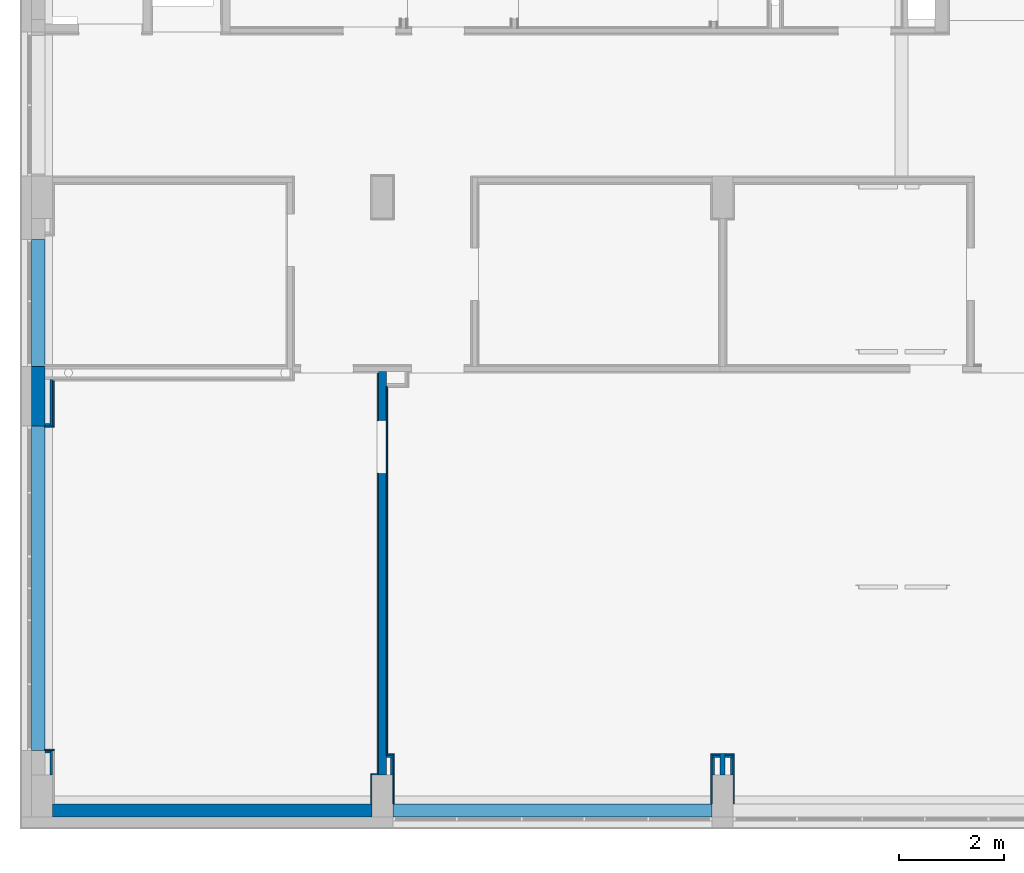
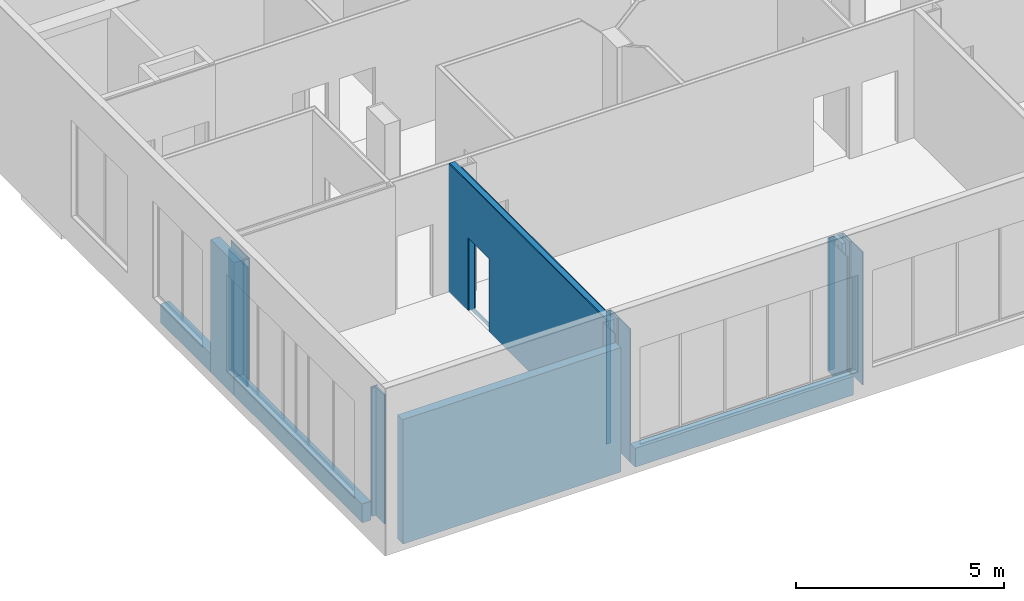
# One storey, part 16 of 29: 30 walls, 3 openings.
"""IFC2X3 building model written with IfcOpenShell, lengths in centimetres."""

from ifc_helpers import new_model, entity, si_unit, converted_unit, derived_unit, direction, frame, frame_2d, origin, origin_2d_with_axis, place, context, subcontext, project, spatial, polyline, rectangle, extrude, clip, bounded_halfspace, material, layer, layer_set, layer_usage, type_object, element, save


model = new_model("IFC2X3")

# Units and contexts
model_context = context("Model", 3, precision=0.001, world=origin(), true_north=direction((6.12303176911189e-17, 1.0)))
body_context = subcontext(model_context, "Body", "Model", "MODEL_VIEW")
ifc_project = project(units=[si_unit("LENGTHUNIT", "METRE", prefix="CENTI"), si_unit("AREAUNIT", "SQUARE_METRE"), si_unit("VOLUMEUNIT", "CUBIC_METRE"), converted_unit("PLANEANGLEUNIT", "DEGREE", entity("IfcRatioMeasure", 0.0174532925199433), si_unit("PLANEANGLEUNIT", "RADIAN"), dimensions=[0, 0, 0, 0, 0, 0, 0]), si_unit("MASSUNIT", "GRAM", prefix="KILO"), derived_unit("MASSDENSITYUNIT", [(si_unit("MASSUNIT", "GRAM", prefix="KILO"), 1), (si_unit("LENGTHUNIT", "METRE"), -3)]), derived_unit("MOMENTOFINERTIAUNIT", [(si_unit("LENGTHUNIT", "METRE"), 4)]), si_unit("TIMEUNIT", "SECOND"), si_unit("FREQUENCYUNIT", "HERTZ"), si_unit("THERMODYNAMICTEMPERATUREUNIT", "DEGREE_CELSIUS"), derived_unit("THERMALTRANSMITTANCEUNIT", [(si_unit("MASSUNIT", "GRAM", prefix="KILO"), 1), (si_unit("THERMODYNAMICTEMPERATUREUNIT", "KELVIN"), -1), (si_unit("TIMEUNIT", "SECOND"), -3)]), derived_unit("VOLUMETRICFLOWRATEUNIT", [(si_unit("LENGTHUNIT", "METRE"), 3), (si_unit("TIMEUNIT", "SECOND"), -1)]), si_unit("ELECTRICCURRENTUNIT", "AMPERE"), si_unit("ELECTRICVOLTAGEUNIT", "VOLT"), si_unit("POWERUNIT", "WATT"), si_unit("FORCEUNIT", "NEWTON", prefix="KILO"), si_unit("ILLUMINANCEUNIT", "LUX"), si_unit("LUMINOUSFLUXUNIT", "LUMEN"), si_unit("LUMINOUSINTENSITYUNIT", "CANDELA"), derived_unit("USERDEFINED", [(si_unit("MASSUNIT", "GRAM", prefix="KILO"), -1), (si_unit("LENGTHUNIT", "METRE"), -2), (si_unit("TIMEUNIT", "SECOND"), 3), (si_unit("LUMINOUSFLUXUNIT", "LUMEN"), 1)]), derived_unit("LINEARVELOCITYUNIT", [(si_unit("LENGTHUNIT", "METRE"), 1), (si_unit("TIMEUNIT", "SECOND"), -1)]), si_unit("PRESSUREUNIT", "PASCAL"), derived_unit("USERDEFINED", [(si_unit("LENGTHUNIT", "METRE"), -2), (si_unit("MASSUNIT", "GRAM", prefix="KILO"), 1), (si_unit("TIMEUNIT", "SECOND"), -2)]), derived_unit("LINEARFORCEUNIT", [(si_unit("MASSUNIT", "GRAM", prefix="KILO"), 1), (si_unit("LENGTHUNIT", "METRE"), 1), (si_unit("TIMEUNIT", "SECOND"), -2), (si_unit("LENGTHUNIT", "METRE"), -1)]), derived_unit("PLANARFORCEUNIT", [(si_unit("MASSUNIT", "GRAM", prefix="KILO"), 1), (si_unit("LENGTHUNIT", "METRE"), 1), (si_unit("TIMEUNIT", "SECOND"), -2), (si_unit("LENGTHUNIT", "METRE"), -2)])], contexts=[model_context])

# Site, building, storey
site_placement = place(None, origin())
site = spatial("IfcSite", under=ifc_project, at=site_placement, Name="Default", CompositionType="ELEMENT")
building_placement = place(site_placement, origin())
building = spatial("IfcBuilding", under=site, at=building_placement, CompositionType="ELEMENT")
storey_placement = place(building_placement, frame((0.0, 0.0, 545.0)))
storey = spatial("IfcBuildingStorey", under=building, at=storey_placement, Name="Poziom 1K +5,45", CompositionType="ELEMENT", Elevation=544.999999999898)

# Walls
ifc_material_1 = material(Name="_Beton C30/37")
ifc_layer_1 = layer(ifc_material_1, 25.0)
ifc_layer_set_1 = layer_set([ifc_layer_1], Name="Ściana podstawowa:Ściana żelbetowa gr. 25cm")
ifc_layer_usage_1 = layer_usage(ifc_layer_set_1, "AXIS2", "NEGATIVE", 12.5)
wall_type_1 = type_object("IfcWallType", Name="Ściana podstawowa:Ściana żelbetowa gr. 25cm", PredefinedType="STANDARD", material=ifc_layer_set_1)
wall_1_placement = place(storey_placement, frame((-2921.76510381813, 1109.62745084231, 0.0), z_axis=(0.0, 0.0, 1.0), x_axis=(0.0, -1.0, 0.0)))
element("IfcWallStandardCase", 1, at=wall_1_placement, inside=storey, type_object=wall_type_1, material=ifc_layer_usage_1, Name="Ściana podstawowa:Ściana żelbetowa gr. 25cm", ObjectType="Ściana podstawowa:Ściana żelbetowa gr. 25cm", context=body_context, shape_type="SweptSolid", body=[
    extrude(rectangle(XDim=113.499793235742, YDim=25.0000000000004, at=frame_2d((56.7498966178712, 0.0), x_axis=(-1.0, 0.0))), origin(), (0.0, 0.0, 1.0), 390.000000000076),
])
ifc_material_2 = material(Name="Pustak ceramiczny, klasa 15")
ifc_layer_2 = layer(ifc_material_2, 25.0)
ifc_layer_set_2 = layer_set([ifc_layer_2], Name="Ściana podstawowa:Ściana murowana gr. 25cm")
ifc_layer_usage_2 = layer_usage(ifc_layer_set_2, "AXIS2", "POSITIVE", -12.5)
wall_type_2 = type_object("IfcWallType", Name="Ściana podstawowa:Ściana murowana gr. 25cm", PredefinedType="STANDARD", material=ifc_layer_set_2)
wall_2_placement = place(storey_placement, frame((-2921.76510657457, 1350.12745208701, 0.0), z_axis=(0.0, 0.0, 1.0), x_axis=(0.0, -1.0, 0.0)))
element("IfcWallStandardCase", 2, at=wall_2_placement, inside=storey, type_object=wall_type_2, material=ifc_layer_usage_2, Name="Ściana podstawowa:Ściana murowana gr. 25cm", ObjectType="Ściana podstawowa:Ściana murowana gr. 25cm", context=body_context, shape_type="SweptSolid", body=[
    extrude(rectangle(XDim=240.500001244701, YDim=25.0000000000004, at=frame_2d((120.250000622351, 0.0), x_axis=(-1.0, 0.0))), origin(), (0.0, 0.0, 1.0), 55.0000000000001),
])
ifc_layer_usage_3 = layer_usage(ifc_layer_set_2, "AXIS2", "POSITIVE", -12.5)
wall_3_placement = place(storey_placement, frame((-2894.2651058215, 267.62765760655, 0.0)))
element("IfcWallStandardCase", 3, at=wall_3_placement, inside=storey, type_object=wall_type_2, material=ifc_layer_usage_3, Name="Ściana podstawowa:Ściana murowana gr. 25cm", ObjectType="Ściana podstawowa:Ściana murowana gr. 25cm", context=body_context, shape_type="SweptSolid", body=[
    extrude(rectangle(XDim=604.999999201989, YDim=24.9999999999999, at=frame_2d((302.499999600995, 0.0), x_axis=(-1.0, 0.0))), origin(), (0.0, 0.0, 1.0), 365.000000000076),
])
ifc_layer_usage_4 = layer_usage(ifc_layer_set_2, "AXIS2", "POSITIVE", -12.5)
wall_4_placement = place(storey_placement, frame((-2249.26510661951, 267.62765760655, 0.0)))
element("IfcWallStandardCase", 4, at=wall_4_placement, inside=storey, type_object=wall_type_2, material=ifc_layer_usage_4, Name="Ściana podstawowa:Ściana murowana gr. 25cm", ObjectType="Ściana podstawowa:Ściana murowana gr. 25cm", context=body_context, shape_type="SweptSolid", body=[
    extrude(rectangle(XDim=604.999999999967, YDim=24.9999999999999, at=frame_2d((302.499999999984, 0.0), x_axis=(-1.0, 0.0))), origin(), (0.0, 0.0, 1.0), 55.0000000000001),
])
ifc_layer_usage_5 = layer_usage(ifc_layer_set_2, "AXIS2", "POSITIVE", -12.5)
wall_5_placement = place(storey_placement, frame((-2921.76510657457, 996.127657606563, 0.0), z_axis=(0.0, 0.0, 1.0), x_axis=(0.0, -1.0, 0.0)))
element("IfcWallStandardCase", 5, at=wall_5_placement, inside=storey, type_object=wall_type_2, material=ifc_layer_usage_5, Name="Ściana podstawowa:Ściana murowana gr. 25cm", ObjectType="Ściana podstawowa:Ściana murowana gr. 25cm", context=body_context, shape_type="SweptSolid", body=[
    extrude(rectangle(XDim=615.00020526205, YDim=25.0000000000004, at=frame_2d((307.500102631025, 0.0), x_axis=(-1.0, 0.0))), origin(), (0.0, 0.0, 1.0), 55.0000000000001),
])
ifc_material_3 = material(Name="Wełna skalna")
ifc_layer_3 = layer(ifc_material_3, 10.0)
ifc_layer_set_3 = layer_set([ifc_layer_3], Name="Ściana podstawowa:Ściana GK rdzeń gr. 10cm")
ifc_layer_usage_6 = layer_usage(ifc_layer_set_3, "AXIS2", "NEGATIVE", 5.0)
wall_type_3 = type_object("IfcWallType", Name="Ściana podstawowa:Ściana GK rdzeń gr. 10cm", PredefinedType="STANDARD", material=ifc_layer_set_3)
wall_6_placement = place(storey_placement, frame((-1624.26510661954, 375.127452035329, 13.0), z_axis=(0.0, 0.0, 1.0), x_axis=(0.0, -1.0, 0.0)))
element("IfcWallStandardCase", 6, at=wall_6_placement, inside=storey, type_object=wall_type_3, material=ifc_layer_usage_6, Name="Ściana podstawowa:Ściana GK rdzeń gr. 10cm", ObjectType="Ściana podstawowa:Ściana GK rdzeń gr. 10cm", context=body_context, shape_type="SweptSolid", body=[
    extrude(rectangle(XDim=39.9997944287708, YDim=9.99999999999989, at=frame_2d((19.9998972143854, 0.0), x_axis=(-1.0, 0.0))), origin(), (0.0, 0.0, 1.0), 377.000000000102),
])

# Wall, opening
ifc_layer_4 = layer(ifc_material_3, 15.0)
ifc_layer_set_4 = layer_set([ifc_layer_4], Name="Ściana podstawowa:Ściana GK rdzeń gr. 15cm")
ifc_layer_usage_7 = layer_usage(ifc_layer_set_4, "AXIS2", "NEGATIVE", 7.5)
wall_type_4 = type_object("IfcWallType", Name="Ściana podstawowa:Ściana GK rdzeń gr. 15cm", PredefinedType="STANDARD", material=ifc_layer_set_4)
wall_7_placement = place(storey_placement, frame((-2269.2651206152, 1099.62745216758, 13.0), z_axis=(0.0, 0.0, 1.0), x_axis=(0.0, -1.0, 0.0)))
wall_7 = element("IfcWallStandardCase", 7, at=wall_7_placement, inside=storey, type_object=wall_type_4, material=ifc_layer_usage_7, Name="Ściana podstawowa:Ściana GK rdzeń gr. 15cm", ObjectType="Ściana podstawowa:Ściana GK rdzeń gr. 15cm", context=body_context, shape_type="SweptSolid", body=[
    extrude(rectangle(XDim=764.499794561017, YDim=15.0000000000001, at=frame_2d((382.249897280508, 3.10862446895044e-15), x_axis=(-1.0, 0.0))), origin(), (0.0, 0.0, 1.0), 377.000000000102),
])
opening_1_placement = place(wall_7_placement, origin())
element("IfcOpeningElement", 8, at=opening_1_placement, cuts=wall_7, Name="Ściana podstawowa:Ściana GK rdzeń gr. 15cm", ObjectType="Opening", context=body_context, shape_type="SweptSolid", body=[
    extrude(rectangle(XDim=215.0, YDim=100.0, at=origin_2d_with_axis()), frame((143.0, -144.9, 107.5), z_axis=(0.0, 1.0, 0.0), x_axis=(0.0, 0.0, -1.0)), (0.0, 0.0, 1.0), 304.8),
])

# Walls
ifc_layer_5 = layer(ifc_material_3, 5.0)
ifc_layer_set_5 = layer_set([ifc_layer_5], Name="Ściana podstawowa:Ściana GK rdzeń gr. 5cm")
ifc_layer_usage_8 = layer_usage(ifc_layer_set_5, "AXIS2", "NEGATIVE", 2.5)
wall_type_5 = type_object("IfcWallType", Name="Ściana podstawowa:Ściana GK rdzeń gr. 5cm", PredefinedType="STANDARD", material=ifc_layer_set_5)
wall_8_placement = place(storey_placement, frame((-1619.26510661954, 370.076185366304, 0.0)))
element("IfcWallStandardCase", 9, at=wall_8_placement, inside=storey, type_object=wall_type_5, material=ifc_layer_usage_8, Name="Ściana podstawowa:Ściana GK rdzeń gr. 5cm", ObjectType="Ściana podstawowa:Ściana GK rdzeń gr. 5cm", context=body_context, shape_type="SweptSolid", body=[
    extrude(rectangle(XDim=15.0000139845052, YDim=5.00000000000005, at=frame_2d((7.50000699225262, 5.55111512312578e-15), x_axis=(-1.0, 0.0))), origin(), (0.0, 0.0, 1.0), 390.000000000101),
])
ifc_layer_usage_9 = layer_usage(ifc_layer_set_5, "AXIS2", "NEGATIVE", 2.5)
wall_9_placement = place(storey_placement, frame((-1606.76509263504, 367.576185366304, 0.0), z_axis=(0.0, 0.0, 1.0), x_axis=(0.0, -1.0, 0.0)))
element("IfcWallStandardCase", 10, at=wall_9_placement, inside=storey, type_object=wall_type_5, material=ifc_layer_usage_9, Name="Ściana podstawowa:Ściana GK rdzeń gr. 5cm", ObjectType="Ściana podstawowa:Ściana GK rdzeń gr. 5cm", context=body_context, shape_type="SweptSolid", body=[
    extrude(rectangle(XDim=32.4997944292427, YDim=5.00000000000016, at=frame_2d((16.2498972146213, 2.70894418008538e-14), x_axis=(-1.0, 0.0))), origin(), (0.0, 0.0, 1.0), 390.000000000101),
])
ifc_layer_usage_10 = layer_usage(ifc_layer_set_5, "AXIS2", "NEGATIVE", 2.5)
wall_10_placement = place(storey_placement, frame((-1641.76510661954, 367.576185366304, 0.0), z_axis=(0.0, 0.0, 1.0), x_axis=(0.0, -1.0, 0.0)))
element("IfcWallStandardCase", 11, at=wall_10_placement, inside=storey, type_object=wall_type_5, material=ifc_layer_usage_10, Name="Ściana podstawowa:Ściana GK rdzeń gr. 5cm", ObjectType="Ściana podstawowa:Ściana GK rdzeń gr. 5cm", context=body_context, shape_type="SweptSolid", body=[
    extrude(rectangle(XDim=32.4997944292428, YDim=5.00000000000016, at=frame_2d((16.2498972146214, 2.70894418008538e-14), x_axis=(-1.0, 0.0))), origin(), (0.0, 0.0, 1.0), 390.000000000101),
])
ifc_layer_usage_11 = layer_usage(ifc_layer_set_5, "AXIS2", "NEGATIVE", 2.5)
wall_11_placement = place(storey_placement, frame((-1629.26510661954, 370.076185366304, 0.0), z_axis=(0.0, 0.0, 1.0), x_axis=(-1.0, 0.0, 0.0)))
element("IfcWallStandardCase", 12, at=wall_11_placement, inside=storey, type_object=wall_type_5, material=ifc_layer_usage_11, Name="Ściana podstawowa:Ściana GK rdzeń gr. 5cm", ObjectType="Ściana podstawowa:Ściana GK rdzeń gr. 5cm", context=body_context, shape_type="SweptSolid", body=[
    extrude(rectangle(XDim=14.9999860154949, YDim=5.00000000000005, at=frame_2d((7.49999300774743, 5.55111512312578e-15), x_axis=(-1.0, 0.0))), origin(), (0.0, 0.0, 1.0), 390.000000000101),
])
ifc_layer_usage_12 = layer_usage(ifc_layer_set_5, "AXIS2", "NEGATIVE", 2.5)
wall_12_placement = place(storey_placement, frame((-2261.7651206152, 370.076185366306, 0.0)))
element("IfcWallStandardCase", 13, at=wall_12_placement, inside=storey, type_object=wall_type_5, material=ifc_layer_usage_12, Name="Ściana podstawowa:Ściana GK rdzeń gr. 5cm", ObjectType="Ściana podstawowa:Ściana GK rdzeń gr. 5cm", context=body_context, shape_type="SweptSolid", body=[
    extrude(rectangle(XDim=12.5000139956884, YDim=5.00000000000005, at=frame_2d((6.25000699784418, 0.0), x_axis=(-1.0, 0.0))), origin(), (0.0, 0.0, 1.0), 390.000000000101),
])
ifc_layer_usage_13 = layer_usage(ifc_layer_set_5, "AXIS2", "NEGATIVE", 2.5)
wall_13_placement = place(storey_placement, frame((-2251.76510661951, 367.576185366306, 0.0), z_axis=(0.0, 0.0, 1.0), x_axis=(0.0, -1.0, 0.0)))
element("IfcWallStandardCase", 14, at=wall_13_placement, inside=storey, type_object=wall_type_5, material=ifc_layer_usage_13, Name="Ściana podstawowa:Ściana GK rdzeń gr. 5cm", ObjectType="Ściana podstawowa:Ściana GK rdzeń gr. 5cm", context=body_context, shape_type="SweptSolid", body=[
    extrude(rectangle(XDim=32.4997944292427, YDim=4.99999999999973, at=frame_2d((16.2498972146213, 2.70894418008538e-14), x_axis=(-1.0, 0.0))), origin(), (0.0, 0.0, 1.0), 390.000000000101),
])
ifc_layer_usage_14 = layer_usage(ifc_layer_set_5, "AXIS2", "NEGATIVE", 2.5)
wall_14_placement = place(storey_placement, frame((-2909.26510657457, 378.627450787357, 13.0)))
element("IfcWallStandardCase", 15, at=wall_14_placement, inside=storey, type_object=wall_type_5, material=ifc_layer_usage_14, Name="Ściana podstawowa:Ściana GK rdzeń gr. 5cm", ObjectType="Ściana podstawowa:Ściana GK rdzeń gr. 5cm", context=body_context, shape_type="SweptSolid", body=[
    extrude(rectangle(XDim=10.0000007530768, YDim=4.99999999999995, at=frame_2d((5.0000003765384, -9.10382880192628e-15), x_axis=(-1.0, 0.0))), origin(), (0.0, 0.0, 1.0), 377.000000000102),
])
ifc_layer_usage_15 = layer_usage(ifc_layer_set_5, "AXIS2", "NEGATIVE", 2.5)
wall_15_placement = place(storey_placement, frame((-2896.7651058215, 381.127450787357, 13.0), z_axis=(0.0, 0.0, 1.0), x_axis=(0.0, -1.0, 0.0)))
element("IfcWallStandardCase", 16, at=wall_15_placement, inside=storey, type_object=wall_type_5, material=ifc_layer_usage_15, Name="Ściana podstawowa:Ściana GK rdzeń gr. 5cm", ObjectType="Ściana podstawowa:Ściana GK rdzeń gr. 5cm", context=body_context, shape_type="SweptSolid", body=[
    extrude(rectangle(XDim=45.9997931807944, YDim=4.99999999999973, at=frame_2d((22.9998965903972, 0.0), x_axis=(-1.0, 0.0))), origin(), (0.0, 0.0, 1.0), 377.000000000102),
])
ifc_layer_usage_16 = layer_usage(ifc_layer_set_5, "AXIS2", "NEGATIVE", 2.5)
wall_16_placement = place(storey_placement, frame((-2896.76511742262, 1084.62745217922, 13.0), z_axis=(0.0, 0.0, 1.0), x_axis=(0.0, -1.0, 0.0)))
element("IfcWallStandardCase", 17, at=wall_16_placement, inside=storey, type_object=wall_type_5, material=ifc_layer_usage_16, Name="Ściana podstawowa:Ściana GK rdzeń gr. 5cm", ObjectType="Ściana podstawowa:Ściana GK rdzeń gr. 5cm", context=body_context, shape_type="Clipping", body=[
    clip(extrude(rectangle(XDim=88.5000014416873, YDim=4.99999999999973, at=frame_2d((44.2500007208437, 0.0), x_axis=(-1.0, 0.0))), origin(), (0.0, 0.0, 1.0), 351.99999999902), bounded_halfspace(frame((0.0, -2.5000000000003, 352.0), z_axis=(0.0, 0.0, 1.0), x_axis=(0.0, -1.0, 0.0)), False, frame((0.0, -2.5000000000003, 352.0), z_axis=(0.0, 0.0, 1.0), x_axis=(0.0, -1.0, 0.0)), polyline([(0.0, 0.0), (0.0, 88.5000014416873), (-5.0, 88.5000014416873), (-5.0, 0.0), (0.0, 0.0)]))),
])
ifc_layer_usage_17 = layer_usage(ifc_layer_set_5, "AXIS2", "NEGATIVE", 2.5)
wall_17_placement = place(storey_placement, frame((-2899.26511742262, 998.627450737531, 13.0), z_axis=(0.0, 0.0, 1.0), x_axis=(-1.0, 0.0, 0.0)))
element("IfcWallStandardCase", 18, at=wall_17_placement, inside=storey, type_object=wall_type_5, material=ifc_layer_usage_17, Name="Ściana podstawowa:Ściana GK rdzeń gr. 5cm", ObjectType="Ściana podstawowa:Ściana GK rdzeń gr. 5cm", context=body_context, shape_type="SweptSolid", body=[
    extrude(rectangle(XDim=9.99998639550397, YDim=5.00000000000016, at=frame_2d((4.99999319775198, 0.0), x_axis=(-1.0, 0.0))), origin(), (0.0, 0.0, 1.0), 377.000000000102),
])

# Wall, opening
ifc_material_4 = material(Name="Tynk gipsowy")
ifc_layer_6 = layer(ifc_material_4, 2.5)
ifc_layer_set_6 = layer_set([ifc_layer_6], Name="Ściana podstawowa:Ściana GK wykonczenie gr. 2,5cm")
ifc_layer_usage_18 = layer_usage(ifc_layer_set_6, "AXIS2", "NEGATIVE", 1.25)
wall_type_6 = type_object("IfcWallType", Name="Ściana podstawowa:Ściana GK wykonczenie gr. 2,5cm", PredefinedType="STANDARD", material=ifc_layer_set_6)
wall_18_placement = place(storey_placement, frame((-2278.0151206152, 1099.62745216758, 13.0), z_axis=(0.0, 0.0, 1.0), x_axis=(0.0, -1.0, 0.0)))
wall_18 = element("IfcWallStandardCase", 19, at=wall_18_placement, inside=storey, type_object=wall_type_6, material=ifc_layer_usage_18, Name="Ściana podstawowa:Ściana GK wykonczenie gr. 2,5cm", ObjectType="Ściana podstawowa:Ściana GK wykonczenie gr. 2,5cm", context=body_context, shape_type="SweptSolid", body=[
    extrude(rectangle(XDim=762.051061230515, YDim=2.5000000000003, at=frame_2d((381.025530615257, -4.44089209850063e-16), x_axis=(-1.0, 0.0))), origin(), (0.0, 0.0, 1.0), 377.000000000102),
])
opening_2_placement = place(wall_18_placement, origin())
element("IfcOpeningElement", 20, at=opening_2_placement, cuts=wall_18, Name="Ściana podstawowa:Ściana GK wykonczenie gr. 2,5cm", ObjectType="Opening", context=body_context, shape_type="SweptSolid", body=[
    extrude(rectangle(XDim=215.0, YDim=100.0, at=origin_2d_with_axis()), frame((143.0, -136.15, 107.5), z_axis=(0.0, 1.0, 0.0), x_axis=(0.0, 0.0, -1.0)), (0.0, 0.0, 1.0), 304.8),
])

# Walls
ifc_layer_usage_19 = layer_usage(ifc_layer_set_6, "AXIS2", "NEGATIVE", 1.25)
wall_19_placement = place(storey_placement, frame((-2276.7651206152, 336.326390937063, 13.0), z_axis=(0.0, 0.0, 1.0), x_axis=(-1.0, 0.0, 0.0)))
element("IfcWallStandardCase", 21, at=wall_19_placement, inside=storey, type_object=wall_type_6, material=ifc_layer_usage_19, Name="Ściana podstawowa:Ściana GK wykonczenie gr. 2,5cm", ObjectType="Ściana podstawowa:Ściana GK wykonczenie gr. 2,5cm", context=body_context, shape_type="SweptSolid", body=[
    extrude(rectangle(XDim=12.499986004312, YDim=2.49999999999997, at=frame_2d((6.24999300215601, 0.0), x_axis=(-1.0, 0.0))), origin(), (0.0, 0.0, 1.0), 377.000000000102),
])
ifc_layer_usage_20 = layer_usage(ifc_layer_set_6, "AXIS2", "NEGATIVE", 1.25)
wall_20_placement = place(storey_placement, frame((-2290.51510661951, 337.576390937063, 13.0), z_axis=(0.0, 0.0, 1.0), x_axis=(0.0, -1.0, 0.0)))
element("IfcWallStandardCase", 22, at=wall_20_placement, inside=storey, type_object=wall_type_6, material=ifc_layer_usage_20, Name="Ściana podstawowa:Ściana GK wykonczenie gr. 2,5cm", ObjectType="Ściana podstawowa:Ściana GK wykonczenie gr. 2,5cm", context=body_context, shape_type="SweptSolid", body=[
    extrude(rectangle(XDim=57.448733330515, YDim=2.5000000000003, at=frame_2d((28.7243666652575, 0.0), x_axis=(-1.0, 0.0))), origin(), (0.0, 0.0, 1.0), 377.000000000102),
])
ifc_layer_usage_21 = layer_usage(ifc_layer_set_6, "AXIS2", "NEGATIVE", 1.25)
wall_21_placement = place(storey_placement, frame((-2891.7651058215, 382.377450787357, 13.0), z_axis=(0.0, 0.0, 1.0), x_axis=(-1.0, 0.0, 0.0)))
element("IfcWallStandardCase", 23, at=wall_21_placement, inside=storey, type_object=wall_type_6, material=ifc_layer_usage_21, Name="Ściana podstawowa:Ściana GK wykonczenie gr. 2,5cm", ObjectType="Ściana podstawowa:Ściana GK wykonczenie gr. 2,5cm", context=body_context, shape_type="SweptSolid", body=[
    extrude(rectangle(XDim=17.5000007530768, YDim=2.49999999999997, at=frame_2d((8.75000037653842, 4.55191440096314e-15), x_axis=(-1.0, 0.0))), origin(), (0.0, 0.0, 1.0), 377.000000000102),
])
ifc_layer_usage_22 = layer_usage(ifc_layer_set_6, "AXIS2", "NEGATIVE", 1.25)
wall_22_placement = place(storey_placement, frame((-2909.26510381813, 994.877450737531, 13.0)))
element("IfcWallStandardCase", 24, at=wall_22_placement, inside=storey, type_object=wall_type_6, material=ifc_layer_usage_22, Name="Ściana podstawowa:Ściana GK wykonczenie gr. 2,5cm", ObjectType="Ściana podstawowa:Ściana GK wykonczenie gr. 2,5cm", context=body_context, shape_type="SweptSolid", body=[
    extrude(rectangle(XDim=14.9999863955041, YDim=2.49999999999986, at=frame_2d((7.49999319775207, 0.0), x_axis=(-1.0, 0.0))), origin(), (0.0, 0.0, 1.0), 377.000000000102),
])
ifc_layer_usage_23 = layer_usage(ifc_layer_set_6, "AXIS2", "NEGATIVE", 1.25)
wall_23_placement = place(storey_placement, frame((-2893.01511742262, 993.627450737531, 13.0), z_axis=(0.0, 0.0, 1.0), x_axis=(0.0, 1.0, 0.0)))
element("IfcWallStandardCase", 25, at=wall_23_placement, inside=storey, type_object=wall_type_6, material=ifc_layer_usage_23, Name="Ściana podstawowa:Ściana GK wykonczenie gr. 2,5cm", ObjectType="Ściana podstawowa:Ściana GK wykonczenie gr. 2,5cm", context=body_context, shape_type="SweptSolid", body=[
    extrude(rectangle(XDim=88.5000014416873, YDim=2.5000000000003, at=frame_2d((44.2500007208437, 0.0), x_axis=(-1.0, 0.0))), origin(), (0.0, 0.0, 1.0), 377.000000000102),
])
ifc_layer_usage_24 = layer_usage(ifc_layer_set_6, "AXIS2", "NEGATIVE", 1.25)
wall_24_placement = place(storey_placement, frame((-2248.01510661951, 280.12765760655, 0.0), z_axis=(0.0, 0.0, 1.0), x_axis=(0.0, 1.0, 0.0)))
element("IfcWallStandardCase", 26, at=wall_24_placement, inside=storey, type_object=wall_type_6, material=ifc_layer_usage_24, Name="Ściana podstawowa:Ściana GK wykonczenie gr. 2,5cm", ObjectType="Ściana podstawowa:Ściana GK wykonczenie gr. 2,5cm", context=body_context, shape_type="SweptSolid", body=[
    extrude(rectangle(XDim=94.9485277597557, YDim=2.5000000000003, at=frame_2d((47.4742638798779, 0.0), x_axis=(-1.0, 0.0))), origin(), (0.0, 0.0, 1.0), 390.000000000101),
])
ifc_layer_usage_25 = layer_usage(ifc_layer_set_6, "AXIS2", "NEGATIVE", 1.25)
wall_25_placement = place(storey_placement, frame((-2249.26510661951, 373.826185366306, 0.0), z_axis=(0.0, 0.0, 1.0), x_axis=(-1.0, 0.0, 0.0)))
element("IfcWallStandardCase", 27, at=wall_25_placement, inside=storey, type_object=wall_type_6, material=ifc_layer_usage_25, Name="Ściana podstawowa:Ściana GK wykonczenie gr. 2,5cm", ObjectType="Ściana podstawowa:Ściana GK wykonczenie gr. 2,5cm", context=body_context, shape_type="SweptSolid", body=[
    extrude(rectangle(XDim=12.5000139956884, YDim=2.49999999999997, at=frame_2d((6.25000699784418, 0.0), x_axis=(-1.0, 0.0))), origin(), (0.0, 0.0, 1.0), 390.000000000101),
])

# Wall, opening
ifc_layer_usage_26 = layer_usage(ifc_layer_set_6, "AXIS2", "NEGATIVE", 1.25)
wall_26_placement = place(storey_placement, frame((-2260.5151206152, 372.576185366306, 0.0), z_axis=(0.0, 0.0, 1.0), x_axis=(0.0, 1.0, 0.0)))
wall_26 = element("IfcWallStandardCase", 28, at=wall_26_placement, inside=storey, type_object=wall_type_6, material=ifc_layer_usage_26, Name="Ściana podstawowa:Ściana GK wykonczenie gr. 2,5cm", ObjectType="Ściana podstawowa:Ściana GK wykonczenie gr. 2,5cm", context=body_context, shape_type="SweptSolid", body=[
    extrude(rectangle(XDim=699.551266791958, YDim=2.5000000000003, at=frame_2d((349.775633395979, 0.0), x_axis=(-1.0, 0.0))), origin(), (0.0, 0.0, 1.0), 390.000000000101),
])
opening_3_placement = place(wall_26_placement, origin())
element("IfcOpeningElement", 29, at=opening_3_placement, cuts=wall_26, Name="Ściana podstawowa:Ściana GK wykonczenie gr. 2,5cm", ObjectType="Opening", context=body_context, shape_type="SweptSolid", body=[
    extrude(rectangle(XDim=215.0, YDim=100.0, at=frame_2d((5.6843418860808e-14, 0.0), x_axis=(0.0, 1.0))), frame((584.051266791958, -151.15, 120.5), z_axis=(0.0, 1.0, 0.0), x_axis=(1.0, 0.0, 0.0)), (0.0, 0.0, 1.0), 304.8),
])

# Walls
ifc_layer_usage_27 = layer_usage(ifc_layer_set_6, "AXIS2", "NEGATIVE", 1.25)
wall_27_placement = place(storey_placement, frame((-1645.51512060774, 280.127657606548, 0.0), z_axis=(0.0, 0.0, 1.0), x_axis=(0.0, 1.0, 0.0)))
element("IfcWallStandardCase", 30, at=wall_27_placement, inside=storey, type_object=wall_type_6, material=ifc_layer_usage_27, Name="Ściana podstawowa:Ściana GK wykonczenie gr. 2,5cm", ObjectType="Ściana podstawowa:Ściana GK wykonczenie gr. 2,5cm", context=body_context, shape_type="SweptSolid", body=[
    extrude(rectangle(XDim=94.9997944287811, YDim=2.49999999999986, at=frame_2d((47.4998972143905, 0.0), x_axis=(-1.0, 0.0))), origin(), (0.0, 0.0, 1.0), 390.000000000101),
])
ifc_layer_usage_28 = layer_usage(ifc_layer_set_6, "AXIS2", "NEGATIVE", 1.25)
wall_28_placement = place(storey_placement, frame((-1644.26510661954, 373.877452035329, 0.0)))
element("IfcWallStandardCase", 31, at=wall_28_placement, inside=storey, type_object=wall_type_6, material=ifc_layer_usage_28, Name="Ściana podstawowa:Ściana GK wykonczenie gr. 2,5cm", ObjectType="Ściana podstawowa:Ściana GK wykonczenie gr. 2,5cm", context=body_context, shape_type="SweptSolid", body=[
    extrude(rectangle(XDim=14.9999999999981, YDim=2.49999999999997, at=frame_2d((7.49999999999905, 0.0), x_axis=(-1.0, 0.0))), origin(), (0.0, 0.0, 1.0), 390.000000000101),
])
ifc_layer_usage_29 = layer_usage(ifc_layer_set_6, "AXIS2", "NEGATIVE", 1.25)
wall_29_placement = place(storey_placement, frame((-1619.26510661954, 373.877452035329, 0.0)))
element("IfcWallStandardCase", 32, at=wall_29_placement, inside=storey, type_object=wall_type_6, material=ifc_layer_usage_29, Name="Ściana podstawowa:Ściana GK wykonczenie gr. 2,5cm", ObjectType="Ściana podstawowa:Ściana GK wykonczenie gr. 2,5cm", context=body_context, shape_type="SweptSolid", body=[
    extrude(rectangle(XDim=17.499986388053, YDim=2.49999999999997, at=frame_2d((8.7499931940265, 7.43849426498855e-15), x_axis=(-1.0, 0.0))), origin(), (0.0, 0.0, 1.0), 390.000000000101),
])
ifc_layer_usage_30 = layer_usage(ifc_layer_set_6, "AXIS2", "NEGATIVE", 1.25)
wall_30_placement = place(storey_placement, frame((-1603.01512023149, 372.627452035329, 0.0), z_axis=(0.0, 0.0, 1.0), x_axis=(0.0, -1.0, 0.0)))
element("IfcWallStandardCase", 33, at=wall_30_placement, inside=storey, type_object=wall_type_6, material=ifc_layer_usage_30, Name="Ściana podstawowa:Ściana GK wykonczenie gr. 2,5cm", ObjectType="Ściana podstawowa:Ściana GK wykonczenie gr. 2,5cm", context=body_context, shape_type="SweptSolid", body=[
    extrude(rectangle(XDim=92.4997944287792, YDim=2.49999999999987, at=frame_2d((46.2498972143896, -2.77555756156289e-15), x_axis=(-1.0, 0.0))), origin(), (0.0, 0.0, 1.0), 390.000000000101),
])

save(model, "model.ifc")
